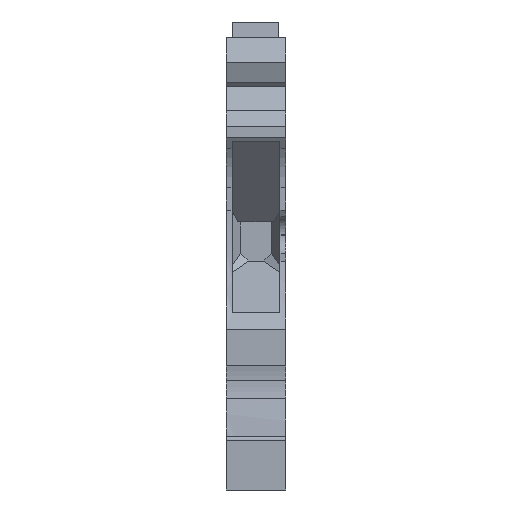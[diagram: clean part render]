
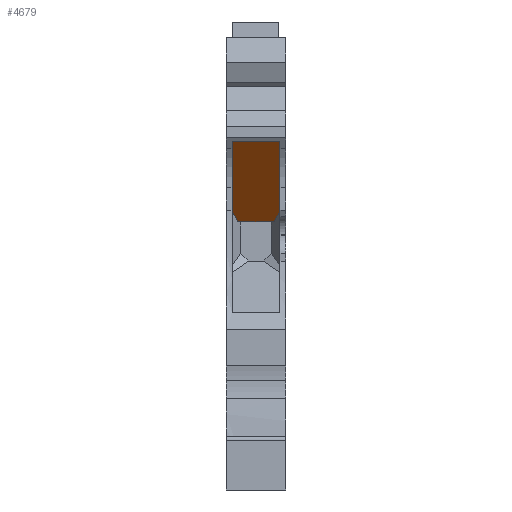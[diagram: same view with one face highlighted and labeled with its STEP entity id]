
A CAD part, front view. The second image highlights one B-rep face of the part: STEP entity #4679.
In plain terms, the highlighted planar face has unit normal (0, -0.715, -0.699).
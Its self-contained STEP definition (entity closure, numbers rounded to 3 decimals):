
#4310=CARTESIAN_POINT('',(0.6,2.428,36.125));
#4311=VERTEX_POINT('',#4310);
#4318=CARTESIAN_POINT('',(5.55,2.428,36.125));
#4319=VERTEX_POINT('',#4318);
#4320=CARTESIAN_POINT('',(5.55,2.428,36.125));
#4321=DIRECTION('',(-1.,-0.,-0.));
#4322=VECTOR('',#4321,4.95);
#4323=LINE('',#4320,#4322);
#4324=EDGE_CURVE('',#4319,#4311,#4323,.T.);
#4481=CARTESIAN_POINT('',(0.6,9.559,28.827));
#4482=VERTEX_POINT('',#4481);
#4489=CARTESIAN_POINT('',(0.6,2.428,36.125));
#4490=DIRECTION('',(-0.,0.699,-0.715));
#4491=VECTOR('',#4490,10.204);
#4492=LINE('',#4489,#4491);
#4493=EDGE_CURVE('',#4311,#4482,#4492,.T.);
#4612=CARTESIAN_POINT('',(1.208,10.612,27.75));
#4613=VERTEX_POINT('',#4612);
#4620=CARTESIAN_POINT('',(0.6,9.559,28.827));
#4621=DIRECTION('',(0.374,0.648,-0.663));
#4622=VECTOR('',#4621,1.624);
#4623=LINE('',#4620,#4622);
#4624=EDGE_CURVE('',#4482,#4613,#4623,.T.);
#4647=CARTESIAN_POINT('',(6.765,10.275,28.095));
#4648=DIRECTION('',(-0.,0.715,0.699));
#4649=DIRECTION('',(0.,-0.699,0.715));
#4650=AXIS2_PLACEMENT_3D('',#4647,#4648,#4649);
#4651=PLANE('',#4650);
#4652=ORIENTED_EDGE('',*,*,#4324,.T.);
#4653=ORIENTED_EDGE('',*,*,#4493,.T.);
#4654=ORIENTED_EDGE('',*,*,#4624,.T.);
#4655=CARTESIAN_POINT('',(4.942,10.612,27.75));
#4656=VERTEX_POINT('',#4655);
#4657=CARTESIAN_POINT('',(1.208,10.612,27.75));
#4658=DIRECTION('',(1.,0.,0.));
#4659=VECTOR('',#4658,3.734);
#4660=LINE('',#4657,#4659);
#4661=EDGE_CURVE('',#4613,#4656,#4660,.T.);
#4662=ORIENTED_EDGE('',*,*,#4661,.T.);
#4663=CARTESIAN_POINT('',(5.55,9.559,28.827));
#4664=VERTEX_POINT('',#4663);
#4665=CARTESIAN_POINT('',(5.55,9.559,28.827));
#4666=DIRECTION('',(-0.374,0.648,-0.663));
#4667=VECTOR('',#4666,1.624);
#4668=LINE('',#4665,#4667);
#4669=EDGE_CURVE('',#4664,#4656,#4668,.T.);
#4670=ORIENTED_EDGE('',*,*,#4669,.F.);
#4671=CARTESIAN_POINT('',(5.55,9.559,28.827));
#4672=DIRECTION('',(0.,-0.699,0.715));
#4673=VECTOR('',#4672,10.204);
#4674=LINE('',#4671,#4673);
#4675=EDGE_CURVE('',#4664,#4319,#4674,.T.);
#4676=ORIENTED_EDGE('',*,*,#4675,.T.);
#4677=EDGE_LOOP('',(#4652,#4653,#4654,#4662,#4670,#4676));
#4678=FACE_BOUND('',#4677,.T.);
#4679=ADVANCED_FACE('',(#4678),#4651,.F.);
